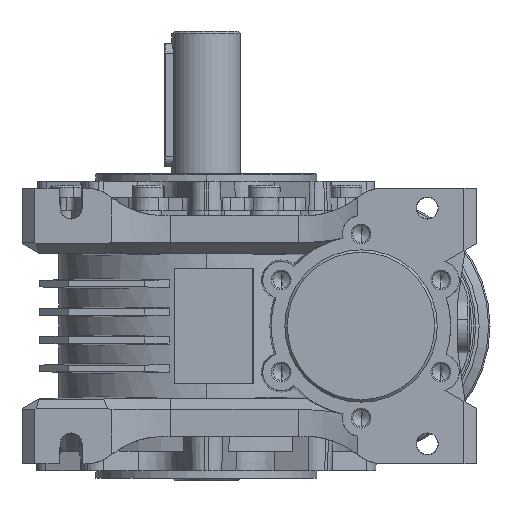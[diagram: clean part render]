
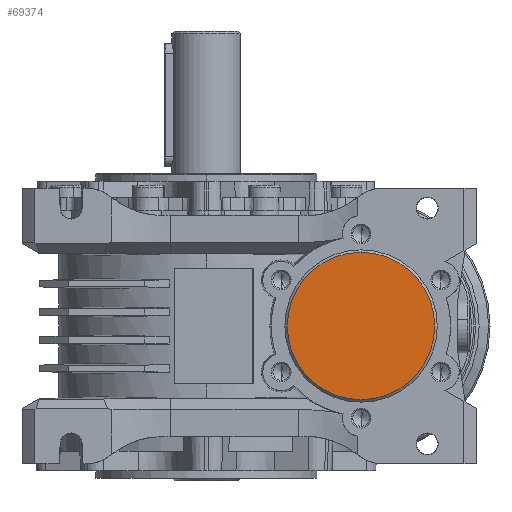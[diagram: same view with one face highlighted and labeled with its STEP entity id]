
A CAD part, left-side view. The second image highlights one B-rep face of the part: STEP entity #69374.
In plain terms, the highlighted planar face has unit normal (-1, 0, 0).
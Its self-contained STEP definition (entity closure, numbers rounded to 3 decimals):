
#1379 = DIRECTION ( 'NONE',  ( -1., 0., 0. ) ) ;
#5463 = CARTESIAN_POINT ( 'NONE',  ( -75., -63., 0. ) ) ;
#10898 = AXIS2_PLACEMENT_3D ( 'NONE', #60593, #1379, #47636 ) ;
#14171 = ORIENTED_EDGE ( 'NONE', *, *, #32481, .T. ) ;
#25773 = PLANE ( 'NONE',  #31218 ) ;
#31218 = AXIS2_PLACEMENT_3D ( 'NONE', #5463, #70739, #58191 ) ;
#32481 = EDGE_CURVE ( 'NONE', #37474, #63204, #48194, .T. ) ;
#37474 = VERTEX_POINT ( 'NONE', #68056 ) ;
#37743 = DIRECTION ( 'NONE',  ( -1., 0., 0. ) ) ;
#45520 = CARTESIAN_POINT ( 'NONE',  ( -75., -63., 0. ) ) ;
#47636 = DIRECTION ( 'NONE',  ( 0., 0., 1. ) ) ;
#48194 = CIRCLE ( 'NONE', #10898, 30. ) ;
#48589 = EDGE_CURVE ( 'NONE', #63204, #37474, #52736, .T. ) ;
#52736 = CIRCLE ( 'NONE', #55427, 30. ) ;
#55427 = AXIS2_PLACEMENT_3D ( 'NONE', #45520, #37743, #63674 ) ;
#57248 = ORIENTED_EDGE ( 'NONE', *, *, #48589, .T. ) ;
#58191 = DIRECTION ( 'NONE',  ( 0., 0., 1. ) ) ;
#60593 = CARTESIAN_POINT ( 'NONE',  ( -75., -63., 0. ) ) ;
#63204 = VERTEX_POINT ( 'NONE', #66692 ) ;
#63674 = DIRECTION ( 'NONE',  ( 0., 0., 1. ) ) ;
#66449 = EDGE_LOOP ( 'NONE', ( #14171, #57248 ) ) ;
#66692 = CARTESIAN_POINT ( 'NONE',  ( -75., -63., 30. ) ) ;
#68056 = CARTESIAN_POINT ( 'NONE',  ( -75., -63., -30. ) ) ;
#69374 = ADVANCED_FACE ( 'NONE', ( #70310 ), #25773, .T. ) ;
#70310 = FACE_OUTER_BOUND ( 'NONE', #66449, .T. ) ;
#70739 = DIRECTION ( 'NONE',  ( -1., 0., 0. ) ) ;
